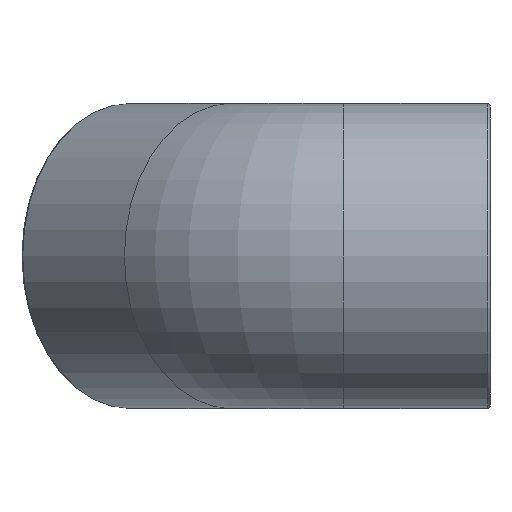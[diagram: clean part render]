
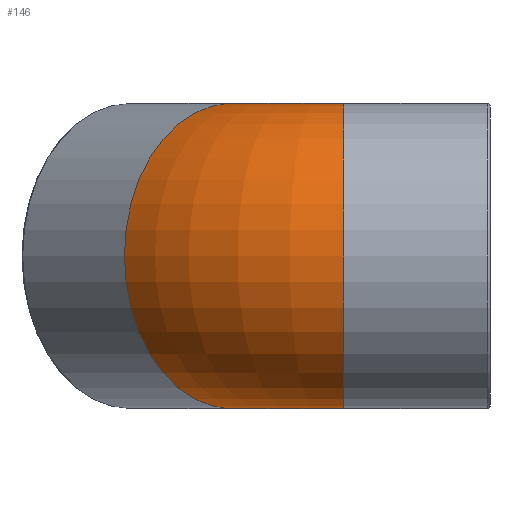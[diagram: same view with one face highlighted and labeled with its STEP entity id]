
A CAD part, left-side view. The second image highlights one B-rep face of the part: STEP entity #146.
In plain terms, the highlighted toroidal (fillet/blend) face has major radius 32 mm and minor radius 31 mm.
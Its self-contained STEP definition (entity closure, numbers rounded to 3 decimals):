
#36=FACE_BOUND('',#72,.T.);
#48=FACE_OUTER_BOUND('',#71,.T.);
#71=EDGE_LOOP('',(#129));
#72=EDGE_LOOP('',(#130));
#75=CIRCLE('',#153,31.);
#79=CIRCLE('',#160,31.);
#85=VERTEX_POINT('',#224);
#89=VERTEX_POINT('',#235);
#97=EDGE_CURVE('',#85,#85,#75,.T.);
#101=EDGE_CURVE('',#89,#89,#79,.T.);
#129=ORIENTED_EDGE('',*,*,#101,.F.);
#130=ORIENTED_EDGE('',*,*,#97,.T.);
#134=TOROIDAL_SURFACE('',#170,32.,31.);
#146=ADVANCED_FACE('',(#48,#36),#134,.T.);
#153=AXIS2_PLACEMENT_3D('',#225,#181,#182);
#160=AXIS2_PLACEMENT_3D('',#236,#195,#196);
#170=AXIS2_PLACEMENT_3D('',#383,#215,#216);
#181=DIRECTION('center_axis',(0.,1.,0.));
#182=DIRECTION('ref_axis',(1.,0.,0.));
#195=DIRECTION('center_axis',(0.707,0.707,0.));
#196=DIRECTION('ref_axis',(0.707,-0.707,0.));
#215=DIRECTION('center_axis',(0.,0.,-1.));
#216=DIRECTION('ref_axis',(-1.,0.,0.));
#224=CARTESIAN_POINT('',(-31.,29.745,0.));
#225=CARTESIAN_POINT('Origin',(0.,29.745,0.));
#235=CARTESIAN_POINT('',(-12.548,74.293,0.));
#236=CARTESIAN_POINT('Origin',(9.373,52.373,0.));
#383=CARTESIAN_POINT('Origin',(32.,29.745,0.));
